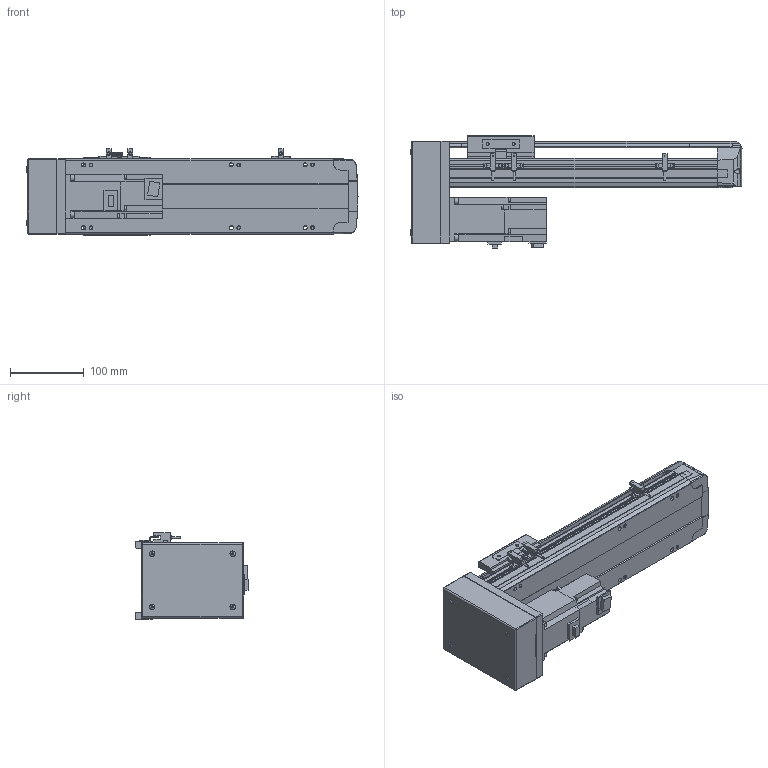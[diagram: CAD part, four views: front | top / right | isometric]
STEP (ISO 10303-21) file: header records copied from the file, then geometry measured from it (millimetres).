
FILE_DESCRIPTION(/* description */ ('STEP AP214'),/* implementation_level */ '2;1');
FILE_NAME(/* name */ 'PSS120-L10-S200-BM-T40-C1-N(0)',/* time_stamp */ '2022-06-06T02:26:03+02:00',/* author */ ('License CC BY-ND 4.0'),/* organization */ ('CADENAS'),/* preprocessor_version */ 'ST-DEVELOPER v18.102',/* originating_system */ 'PARTsolutions',/* authorisation */ ' ');
FILE_SCHEMA (('AUTOMOTIVE_DESIGN {1 0 10303 214 3 1 1}'));
Length unit declared in the file: millimetre
Products named in the file (8): PSS120-L10-S200-BM-T40-C1-N(0); PSS120-S200-BM-N_S; T40-p1; PSS120BM-N_h; PSS120-N_sensor; PSS120-BM-C1-N_sl; PSS120-N_Q; PSS120-S200-BM-C1-N_body
Assembly tree (9 placements, depth 2):
  PSS120-L10-S200-BM-T40-C1-N(0)
    PSS120-S200-BM-N_S
    T40-p1
    PSS120BM-N_h
    PSS120-N_sensor  x3
    PSS120-BM-C1-N_sl
    PSS120-N_Q
    PSS120-S200-BM-C1-N_body
Bounding box: 449.35 x 151.8 x 117.7 mm (x, y, z)
Volume: 2452442.6 mm3; surface area: 390956.5 mm2
Topology: 9 solids, 9 shells, 793 faces, 2141 edges, 1422 vertices
Faces by surface type: plane 562, cylinder 213, cone 14, sphere 4
Full cylindrical faces by diameter (mm): 2.8 x3, 4 x4, 4.134 x10, 4.4 x2, 4.5 x4, 4.6 x3, 5 x6, 5.5 x13, 7 x2, 7.4 x4, 8 x4, 8.5 x10, 14 x1, 28 x1, 32 x2, 50 x1
Entity records: 21419 total; most frequent: CARTESIAN_POINT 3878, DIRECTION 3557, ORIENTED_EDGE 3514, EDGE_CURVE 1757, LINE 1275, VECTOR 1275, VERTEX_POINT 1214, AXIS2_PLACEMENT_3D 1141
